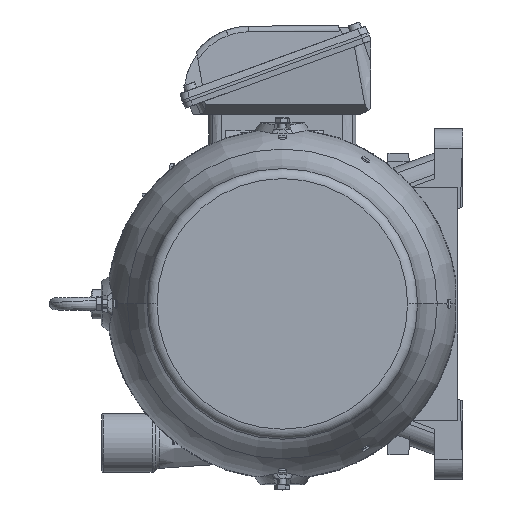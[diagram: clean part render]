
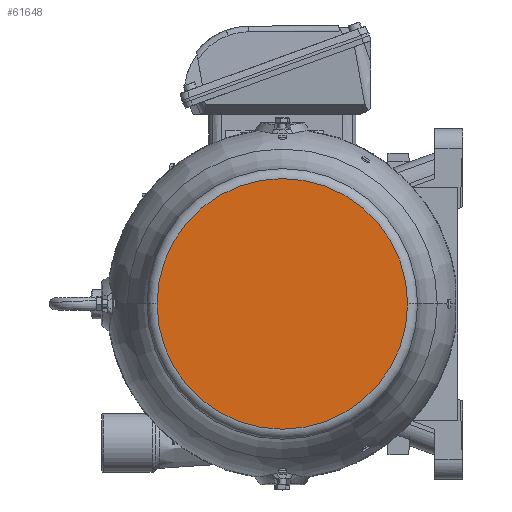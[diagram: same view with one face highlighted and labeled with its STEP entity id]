
A CAD part, left-side view. The second image highlights one B-rep face of the part: STEP entity #61648.
In plain terms, the highlighted planar face has unit normal (-1, 0, 0) as drawn and (0, 0, -1) by its records, which use the part's own axes.
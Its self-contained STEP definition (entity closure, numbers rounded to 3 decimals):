
#16123 = VERTEX_POINT ( 'NONE', #84568 ) ;
#16261 = DIRECTION ( 'NONE',  ( 0., 1., 0. ) ) ;
#16744 = PLANE ( 'NONE',  #22271 ) ;
#18566 = CARTESIAN_POINT ( 'NONE',  ( 0., 0., -312.1 ) ) ;
#19050 = AXIS2_PLACEMENT_3D ( 'NONE', #24318, #55549, #16261 ) ;
#20150 = DIRECTION ( 'NONE',  ( 0., 0., 1. ) ) ;
#22271 = AXIS2_PLACEMENT_3D ( 'NONE', #48491, #74288, #96393 ) ;
#24318 = CARTESIAN_POINT ( 'NONE',  ( 0., 0., -312.1 ) ) ;
#27693 = DIRECTION ( 'NONE',  ( 0., 1., 0. ) ) ;
#36062 = VERTEX_POINT ( 'NONE', #72859 ) ;
#38282 = ORIENTED_EDGE ( 'NONE', *, *, #76351, .F. ) ;
#44799 = CIRCLE ( 'NONE', #19050, 125. ) ;
#48491 = CARTESIAN_POINT ( 'NONE',  ( 0., 125., -312.1 ) ) ;
#55549 = DIRECTION ( 'NONE',  ( 0., 0., 1. ) ) ;
#57289 = AXIS2_PLACEMENT_3D ( 'NONE', #18566, #20150, #27693 ) ;
#61648 = ADVANCED_FACE ( 'NONE', ( #90446 ), #16744, .T. ) ;
#63860 = EDGE_CURVE ( 'NONE', #16123, #36062, #44799, .T. ) ;
#72859 = CARTESIAN_POINT ( 'NONE',  ( 0., -125., -312.1 ) ) ;
#74288 = DIRECTION ( 'NONE',  ( 0., 0., -1. ) ) ;
#76351 = EDGE_CURVE ( 'NONE', #36062, #16123, #100154, .T. ) ;
#84568 = CARTESIAN_POINT ( 'NONE',  ( 0., 125., -312.1 ) ) ;
#90446 = FACE_OUTER_BOUND ( 'NONE', #93971, .T. ) ;
#91834 = ORIENTED_EDGE ( 'NONE', *, *, #63860, .F. ) ;
#93971 = EDGE_LOOP ( 'NONE', ( #91834, #38282 ) ) ;
#96393 = DIRECTION ( 'NONE',  ( 0., -1., 0. ) ) ;
#100154 = CIRCLE ( 'NONE', #57289, 125. ) ;
